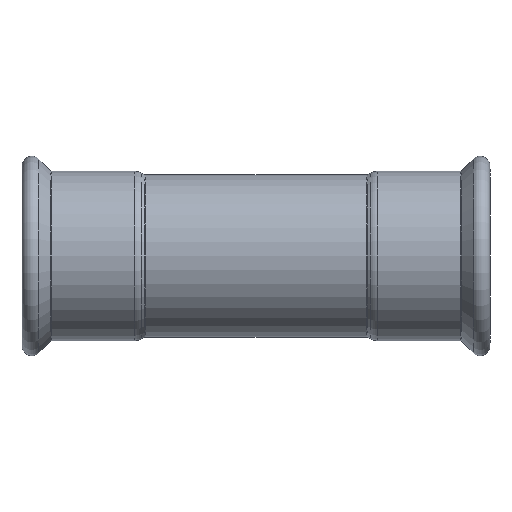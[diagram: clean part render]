
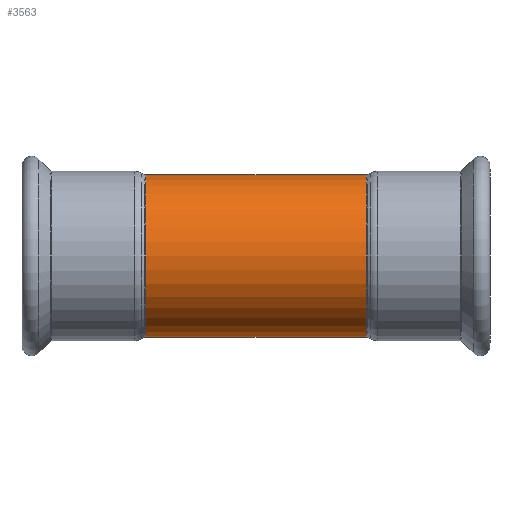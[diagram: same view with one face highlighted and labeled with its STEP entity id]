
A CAD part, front view. The second image highlights one B-rep face of the part: STEP entity #3563.
In plain terms, the highlighted cylindrical face has radius 53.5 mm (diameter 107 mm), a partial arc.
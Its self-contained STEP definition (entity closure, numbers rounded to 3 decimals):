
#32 = DIRECTION ( 'NONE',  ( 0., 0., 1. ) ) ;
#561 = FACE_OUTER_BOUND ( 'NONE', #991, .T. ) ;
#721 = CARTESIAN_POINT ( 'NONE',  ( 72.868, 0., 0. ) ) ;
#765 = CIRCLE ( 'NONE', #1120, 53.5 ) ;
#766 = DIRECTION ( 'NONE',  ( -1., 0., 0. ) ) ;
#991 = EDGE_LOOP ( 'NONE', ( #2096, #1692, #2325, #2752 ) ) ;
#1005 = DIRECTION ( 'NONE',  ( -1., 0., 0. ) ) ;
#1087 = CARTESIAN_POINT ( 'NONE',  ( 27.146, 0., 0. ) ) ;
#1115 = DIRECTION ( 'NONE',  ( -1., 0., 0. ) ) ;
#1120 = AXIS2_PLACEMENT_3D ( 'NONE', #721, #1005, #32 ) ;
#1132 = DIRECTION ( 'NONE',  ( 0., 0., 1. ) ) ;
#1146 = VERTEX_POINT ( 'NONE', #3525 ) ;
#1211 = VERTEX_POINT ( 'NONE', #1819 ) ;
#1353 = LINE ( 'NONE', #3841, #3544 ) ;
#1692 = ORIENTED_EDGE ( 'NONE', *, *, #3415, .T. ) ;
#1819 = CARTESIAN_POINT ( 'NONE',  ( 72.868, 0., 53.5 ) ) ;
#1836 = VERTEX_POINT ( 'NONE', #2674 ) ;
#1880 = EDGE_CURVE ( 'NONE', #1211, #2801, #1353, .T. ) ;
#2096 = ORIENTED_EDGE ( 'NONE', *, *, #2982, .F. ) ;
#2325 = ORIENTED_EDGE ( 'NONE', *, *, #1880, .T. ) ;
#2427 = DIRECTION ( 'NONE',  ( 0., 0., 1. ) ) ;
#2504 = DIRECTION ( 'NONE',  ( -1., 0., 0. ) ) ;
#2617 = AXIS2_PLACEMENT_3D ( 'NONE', #1087, #766, #1132 ) ;
#2674 = CARTESIAN_POINT ( 'NONE',  ( 72.868, 0., -53.5 ) ) ;
#2752 = ORIENTED_EDGE ( 'NONE', *, *, #2846, .F. ) ;
#2801 = VERTEX_POINT ( 'NONE', #3735 ) ;
#2846 = EDGE_CURVE ( 'NONE', #1146, #2801, #4246, .T. ) ;
#2876 = DIRECTION ( 'NONE',  ( -1., 0., 0. ) ) ;
#2950 = CYLINDRICAL_SURFACE ( 'NONE', #2617, 53.5 ) ;
#2982 = EDGE_CURVE ( 'NONE', #1836, #1146, #3906, .T. ) ;
#3103 = VECTOR ( 'NONE', #2504, 1000. ) ;
#3143 = CARTESIAN_POINT ( 'NONE',  ( -72.868, 0., 0. ) ) ;
#3415 = EDGE_CURVE ( 'NONE', #1836, #1211, #765, .T. ) ;
#3525 = CARTESIAN_POINT ( 'NONE',  ( -72.868, 0., -53.5 ) ) ;
#3544 = VECTOR ( 'NONE', #2876, 1000. ) ;
#3563 = ADVANCED_FACE ( 'NONE', ( #561 ), #2950, .T. ) ;
#3735 = CARTESIAN_POINT ( 'NONE',  ( -72.868, 0., 53.5 ) ) ;
#3841 = CARTESIAN_POINT ( 'NONE',  ( 27.146, 0., 53.5 ) ) ;
#3906 = LINE ( 'NONE', #4181, #3103 ) ;
#3965 = AXIS2_PLACEMENT_3D ( 'NONE', #3143, #1115, #2427 ) ;
#4181 = CARTESIAN_POINT ( 'NONE',  ( 27.146, 0., -53.5 ) ) ;
#4246 = CIRCLE ( 'NONE', #3965, 53.5 ) ;
